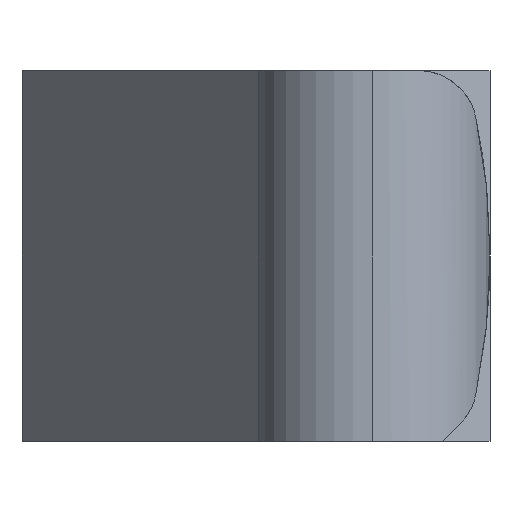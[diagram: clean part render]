
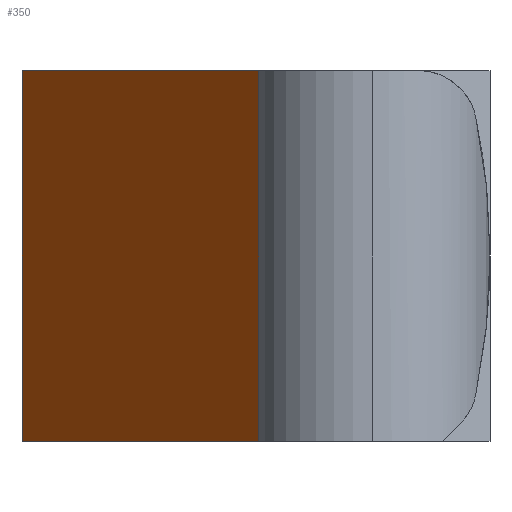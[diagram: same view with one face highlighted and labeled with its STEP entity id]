
A CAD part, left-side view. The second image highlights one B-rep face of the part: STEP entity #350.
In plain terms, the highlighted planar face has unit normal (-0.227, 0.974, 0).
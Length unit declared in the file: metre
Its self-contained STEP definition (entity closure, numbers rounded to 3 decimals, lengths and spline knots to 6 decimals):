
#29=PLANE('',#394);
#51=LINE('',#583,#79);
#60=LINE('',#603,#88);
#62=LINE('',#606,#90);
#63=LINE('',#608,#91);
#79=VECTOR('',#457,1.);
#88=VECTOR('',#474,1.);
#90=VECTOR('',#478,1.);
#91=VECTOR('',#479,1.);
#150=ORIENTED_EDGE('',*,*,#220,.F.);
#151=ORIENTED_EDGE('',*,*,#230,.F.);
#152=ORIENTED_EDGE('',*,*,#232,.T.);
#153=ORIENTED_EDGE('',*,*,#233,.F.);
#220=EDGE_CURVE('',#263,#264,#51,.T.);
#230=EDGE_CURVE('',#270,#263,#60,.T.);
#232=EDGE_CURVE('',#270,#271,#62,.T.);
#233=EDGE_CURVE('',#264,#271,#63,.F.);
#263=VERTEX_POINT('',#582);
#264=VERTEX_POINT('',#584);
#270=VERTEX_POINT('',#602);
#271=VERTEX_POINT('',#607);
#293=EDGE_LOOP('',(#150,#151,#152,#153));
#318=FACE_BOUND('',#293,.T.);
#350=ADVANCED_FACE('',(#318),#29,.F.);
#394=AXIS2_PLACEMENT_3D('',#605,#476,#477);
#457=DIRECTION('',(-0.974,-0.227,0.));
#474=DIRECTION('',(0.,0.,1.));
#476=DIRECTION('',(0.227,-0.974,0.));
#477=DIRECTION('',(-0.974,-0.227,0.));
#478=DIRECTION('',(-0.974,-0.227,0.));
#479=DIRECTION('',(0.,0.,1.));
#582=CARTESIAN_POINT('',(-0.01,0.0025,0.0095));
#583=CARTESIAN_POINT('',(-0.024175,-0.000807,0.0095));
#584=CARTESIAN_POINT('',(-0.036031,-0.003574,0.0095));
#602=CARTESIAN_POINT('',(-0.01,0.0025,0.));
#603=CARTESIAN_POINT('',(-0.01,0.0025,0.));
#605=CARTESIAN_POINT('',(-0.024175,-0.000807,0.));
#606=CARTESIAN_POINT('',(-0.024175,-0.000807,0.));
#607=CARTESIAN_POINT('',(-0.036031,-0.003574,0.));
#608=CARTESIAN_POINT('',(-0.036031,-0.003574,0.));
